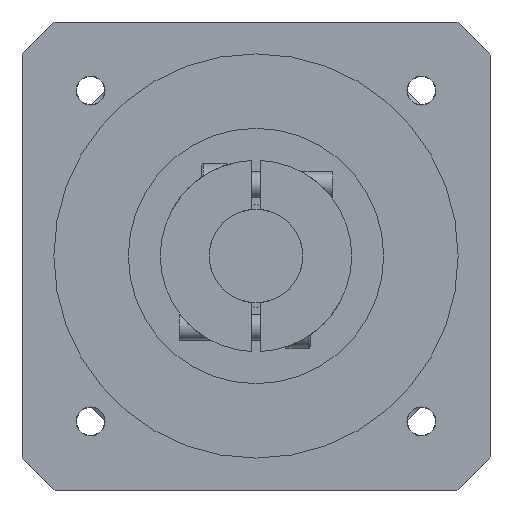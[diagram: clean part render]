
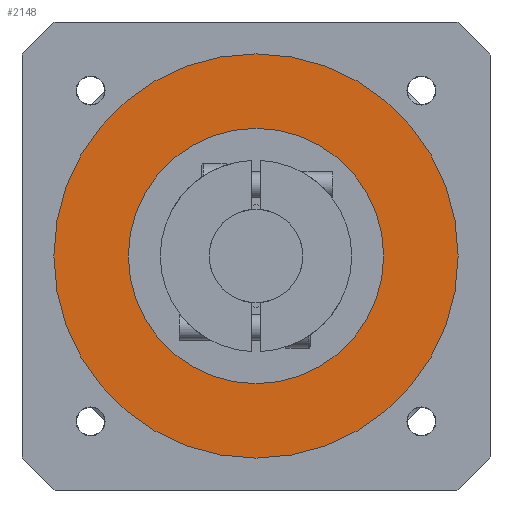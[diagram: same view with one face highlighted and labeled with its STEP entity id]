
A CAD part, front view. The second image highlights one B-rep face of the part: STEP entity #2148.
In plain terms, the highlighted planar face has unit normal (0, -1, 0).
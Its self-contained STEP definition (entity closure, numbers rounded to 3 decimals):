
#55 = CARTESIAN_POINT ( 'NONE',  ( 0., -158.5, 47.5 ) ) ;
#84 = DIRECTION ( 'NONE',  ( 0., -1., 0. ) ) ;
#418 = ORIENTED_EDGE ( 'NONE', *, *, #3907, .T. ) ;
#443 = CARTESIAN_POINT ( 'NONE',  ( 0., -158.5, 0. ) ) ;
#451 = VERTEX_POINT ( 'NONE', #55 ) ;
#554 = CARTESIAN_POINT ( 'NONE',  ( 0., -158.5, -47.5 ) ) ;
#576 = DIRECTION ( 'NONE',  ( 0., -1., 0. ) ) ;
#854 = EDGE_LOOP ( 'NONE', ( #1452, #3787 ) ) ;
#935 = DIRECTION ( 'NONE',  ( 0., 0., -1. ) ) ;
#1012 = CARTESIAN_POINT ( 'NONE',  ( 0., -158.5, -30. ) ) ;
#1243 = CARTESIAN_POINT ( 'NONE',  ( 0., -158.5, 0. ) ) ;
#1311 = CIRCLE ( 'NONE', #4211, 30. ) ;
#1418 = CARTESIAN_POINT ( 'NONE',  ( 0., -158.5, 0. ) ) ;
#1452 = ORIENTED_EDGE ( 'NONE', *, *, #2826, .F. ) ;
#1719 = DIRECTION ( 'NONE',  ( 0., 0., -1. ) ) ;
#1815 = VERTEX_POINT ( 'NONE', #554 ) ;
#1901 = DIRECTION ( 'NONE',  ( 0., 0., -1. ) ) ;
#1972 = AXIS2_PLACEMENT_3D ( 'NONE', #1243, #4645, #1719 ) ;
#2148 = ADVANCED_FACE ( 'NONE', ( #5979, #3681 ), #2521, .T. ) ;
#2194 = AXIS2_PLACEMENT_3D ( 'NONE', #1418, #4842, #1901 ) ;
#2471 = VERTEX_POINT ( 'NONE', #1012 ) ;
#2521 = PLANE ( 'NONE',  #4465 ) ;
#2658 = CARTESIAN_POINT ( 'NONE',  ( 0., -158.5, 30. ) ) ;
#2826 = EDGE_CURVE ( 'NONE', #5233, #2471, #1311, .T. ) ;
#2977 = CIRCLE ( 'NONE', #3393, 47.5 ) ;
#3187 = EDGE_LOOP ( 'NONE', ( #418, #4065 ) ) ;
#3393 = AXIS2_PLACEMENT_3D ( 'NONE', #3484, #576, #3967 ) ;
#3484 = CARTESIAN_POINT ( 'NONE',  ( 0., -158.5, 0. ) ) ;
#3493 = DIRECTION ( 'NONE',  ( 0., 0., -1. ) ) ;
#3681 = FACE_OUTER_BOUND ( 'NONE', #3187, .T. ) ;
#3787 = ORIENTED_EDGE ( 'NONE', *, *, #4296, .F. ) ;
#3839 = DIRECTION ( 'NONE',  ( 0., -1., 0. ) ) ;
#3907 = EDGE_CURVE ( 'NONE', #1815, #451, #2977, .T. ) ;
#3967 = DIRECTION ( 'NONE',  ( 0., 0., -1. ) ) ;
#4065 = ORIENTED_EDGE ( 'NONE', *, *, #4536, .T. ) ;
#4211 = AXIS2_PLACEMENT_3D ( 'NONE', #443, #3839, #935 ) ;
#4296 = EDGE_CURVE ( 'NONE', #2471, #5233, #5726, .T. ) ;
#4465 = AXIS2_PLACEMENT_3D ( 'NONE', #5930, #84, #3493 ) ;
#4536 = EDGE_CURVE ( 'NONE', #451, #1815, #4799, .T. ) ;
#4645 = DIRECTION ( 'NONE',  ( 0., -1., 0. ) ) ;
#4799 = CIRCLE ( 'NONE', #2194, 47.5 ) ;
#4842 = DIRECTION ( 'NONE',  ( 0., -1., 0. ) ) ;
#5233 = VERTEX_POINT ( 'NONE', #2658 ) ;
#5726 = CIRCLE ( 'NONE', #1972, 30. ) ;
#5930 = CARTESIAN_POINT ( 'NONE',  ( 0., -158.5, 0. ) ) ;
#5979 = FACE_BOUND ( 'NONE', #854, .T. ) ;
